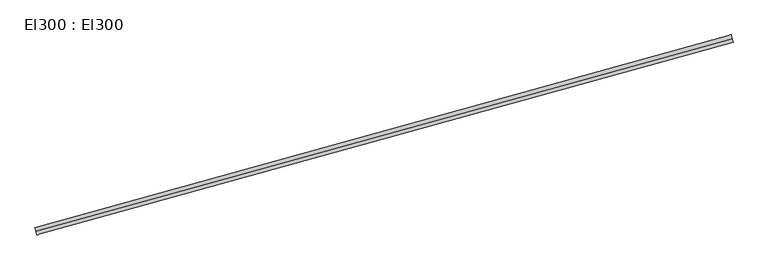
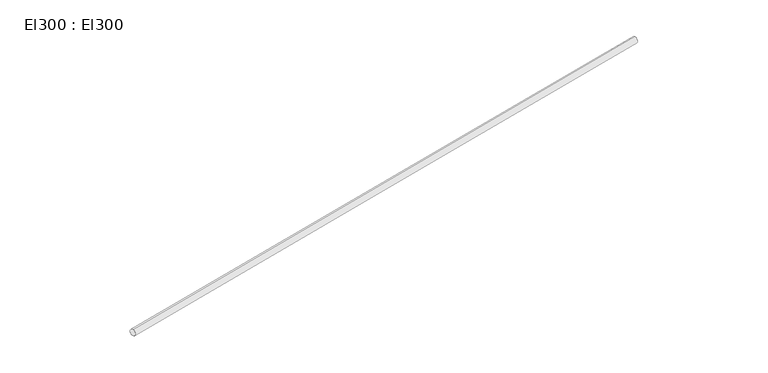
"""IFC4 building model written with IfcOpenShell, lengths in millimetres: cable carrier segment geometry, El300 : El300."""

from ifc_helpers import new_model, si_unit, point, frame, frame_2d, origin, place, context, project, spatial, circle_curve, trimmed, segment, composite_curve, outline, extrude, source, transform, mapped, element, save


def el300_el300_2e2a347b(model_context):
    return source(origin(), model_context, "Body", "SweptSolid", [
        extrude(outline(composite_curve([segment(trimmed(circle_curve(frame_2d((0.0, -9.5)), 9.5), [point((0.0, -19.0))], [point((0.0, 0.0))], False, "CARTESIAN"), True, "CONTINUOUS"), segment(trimmed(circle_curve(frame_2d((0.0, -9.5)), 9.5), [point((0.0, 0.0))], [point((0.0, -19.0))], False, "CARTESIAN"), True, "CONTINUOUS")], self_intersect=False)), frame((20461.818, 14279.498, 2959.5), z_axis=(0.9637870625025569, 0.2666730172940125, 0.0), x_axis=(-0.2666730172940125, 0.9637870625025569, 0.0)), (0.0, 0.0, 1.0), 1825.47),
    ])


if __name__ == "__main__":
    model = new_model("IFC4")
    model_context = context("Model", 3, world=origin())
    ifc_project = project(units=[si_unit("LENGTHUNIT", "METRE", prefix="MILLI")], contexts=[model_context])
    site = spatial("IfcSite", under=ifc_project)
    building = spatial("IfcBuilding", under=site)
    placement = place(None, origin())
    el300_el300_shape = el300_el300_2e2a347b(model_context)
    element("IfcCableCarrierSegment", 1, ObjectType="El300 : El300", at=placement, inside=building, context=model_context, shape_type="MappedRepresentation", body=[
        mapped(el300_el300_shape, transform((0.0, 0.0, 0.0), x_axis=(1.0, 0.0, 0.0), y_axis=(0.0, 1.0, 0.0), z_axis=(0.0, 0.0, 1.0))),
    ])
    save(model, "model.ifc")
